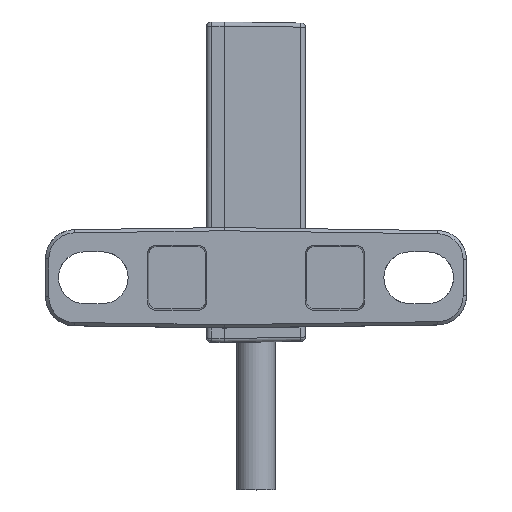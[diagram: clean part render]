
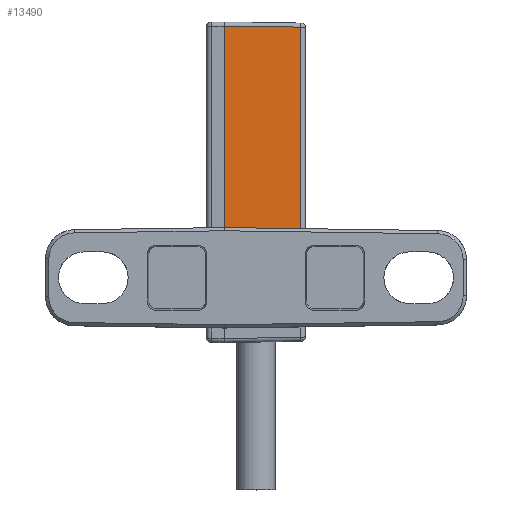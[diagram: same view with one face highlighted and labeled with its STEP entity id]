
A CAD part, top view. The second image highlights one B-rep face of the part: STEP entity #13490.
In plain terms, the highlighted planar face has unit normal (0.014, 0, 1).
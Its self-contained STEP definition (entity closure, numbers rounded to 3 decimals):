
#4565=DIRECTION('',(-1.,0.014,0.014));
#4566=VECTOR('',#4565,4.712);
#4567=CARTESIAN_POINT('',(2.754,8.084,6.684));
#4568=LINE('',#4567,#4566);
#4572=DIRECTION('',(0.,-1.,0.));
#4573=VECTOR('',#4572,12.45);
#4574=CARTESIAN_POINT('',(2.754,8.084,6.684));
#4575=LINE('',#4574,#4573);
#4579=DIRECTION('',(1.,-0.014,-0.014));
#4580=VECTOR('',#4579,4.712);
#4581=CARTESIAN_POINT('',(-1.957,-4.3,6.75));
#4582=LINE('',#4581,#4580);
#4586=DIRECTION('',(0.,-1.,0.));
#4587=VECTOR('',#4586,12.45);
#4588=CARTESIAN_POINT('',(-1.957,8.15,6.75));
#4589=LINE('',#4588,#4587);
#7629=CARTESIAN_POINT('',(-1.957,-4.3,6.75));
#7630=VERTEX_POINT('',#7629);
#7633=CARTESIAN_POINT('',(2.754,-4.366,6.684));
#7634=VERTEX_POINT('',#7633);
#7922=CARTESIAN_POINT('',(-1.957,8.15,6.75));
#7923=VERTEX_POINT('',#7922);
#7928=CARTESIAN_POINT('',(2.754,8.084,6.684));
#7929=VERTEX_POINT('',#7928);
#13478=CARTESIAN_POINT('',(-1.957,8.4,6.75));
#13479=DIRECTION('',(0.014,0.,1.));
#13480=DIRECTION('',(0.,-1.,0.));
#13481=AXIS2_PLACEMENT_3D('',#13478,#13479,#13480);
#13482=PLANE('',#13481);
#13483=ORIENTED_EDGE('',*,*,#13359,.F.);
#13484=ORIENTED_EDGE('',*,*,#13466,.T.);
#13485=ORIENTED_EDGE('',*,*,#11475,.F.);
#13487=ORIENTED_EDGE('',*,*,#13486,.F.);
#13488=EDGE_LOOP('',(#13483,#13484,#13485,#13487));
#13489=FACE_OUTER_BOUND('',#13488,.F.);
#13490=ADVANCED_FACE('',(#13489),#13482,.T.);
#11475=EDGE_CURVE('',#7630,#7634,#4582,.T.);
#13359=EDGE_CURVE('',#7929,#7923,#4568,.T.);
#13466=EDGE_CURVE('',#7929,#7634,#4575,.T.);
#13486=EDGE_CURVE('',#7923,#7630,#4589,.T.);
